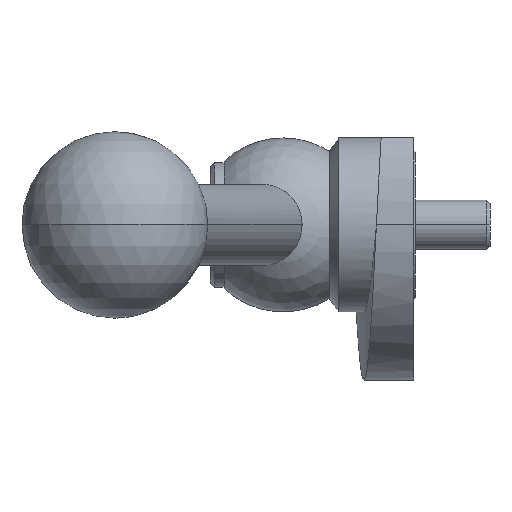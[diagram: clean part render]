
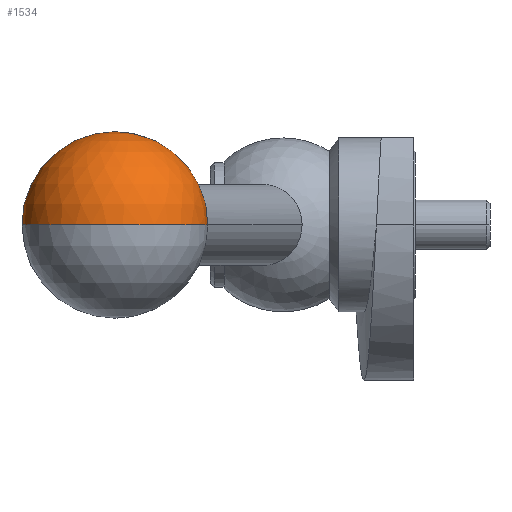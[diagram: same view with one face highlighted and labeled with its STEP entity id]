
A CAD part, left-side view. The second image highlights one B-rep face of the part: STEP entity #1534.
In plain terms, the highlighted spherical face has radius 15 mm.
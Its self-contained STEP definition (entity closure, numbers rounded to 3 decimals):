
#116 = VERTEX_POINT ( 'NONE', #2003 ) ;
#147 = EDGE_CURVE ( 'NONE', #116, #1651, #1750, .T. ) ;
#218 = DIRECTION ( 'NONE',  ( 0., 1., 0. ) ) ;
#334 = CARTESIAN_POINT ( 'NONE',  ( -88.443, 32.698, 0. ) ) ;
#395 = ORIENTED_EDGE ( 'NONE', *, *, #1309, .F. ) ;
#416 = AXIS2_PLACEMENT_3D ( 'NONE', #422, #430, #737 ) ;
#422 = CARTESIAN_POINT ( 'NONE',  ( -101., 36.063, 0. ) ) ;
#430 = DIRECTION ( 'NONE',  ( 0., 0., 1. ) ) ;
#499 = CARTESIAN_POINT ( 'NONE',  ( -101., 36.063, 0. ) ) ;
#532 = CARTESIAN_POINT ( 'NONE',  ( -90.38, 25.47, 0. ) ) ;
#542 = AXIS2_PLACEMENT_3D ( 'NONE', #957, #1602, #1899 ) ;
#649 = SPHERICAL_SURFACE ( 'NONE', #542, 15. ) ;
#672 = AXIS2_PLACEMENT_3D ( 'NONE', #334, #1578, #1140 ) ;
#695 = ORIENTED_EDGE ( 'NONE', *, *, #147, .F. ) ;
#737 = DIRECTION ( 'NONE',  ( 1., 0., 0. ) ) ;
#957 = CARTESIAN_POINT ( 'NONE',  ( -101., 36.063, 0. ) ) ;
#1086 = EDGE_LOOP ( 'NONE', ( #395, #1481, #695 ) ) ;
#1140 = DIRECTION ( 'NONE',  ( 0.259, 0.966, 0. ) ) ;
#1233 = EDGE_CURVE ( 'NONE', #1888, #1651, #1916, .T. ) ;
#1237 = AXIS2_PLACEMENT_3D ( 'NONE', #499, #1287, #218 ) ;
#1287 = DIRECTION ( 'NONE',  ( 0., 0., -1. ) ) ;
#1309 = EDGE_CURVE ( 'NONE', #1888, #116, #1496, .T. ) ;
#1405 = CARTESIAN_POINT ( 'NONE',  ( -115.489, 39.945, 0. ) ) ;
#1481 = ORIENTED_EDGE ( 'NONE', *, *, #1233, .T. ) ;
#1496 = CIRCLE ( 'NONE', #1237, 15. ) ;
#1534 = ADVANCED_FACE ( 'NONE', ( #1889 ), #649, .T. ) ;
#1578 = DIRECTION ( 'NONE',  ( 0.966, -0.259, 0. ) ) ;
#1602 = DIRECTION ( 'NONE',  ( 0., 0., -1. ) ) ;
#1651 = VERTEX_POINT ( 'NONE', #532 ) ;
#1750 = CIRCLE ( 'NONE', #672, 7.483 ) ;
#1888 = VERTEX_POINT ( 'NONE', #1405 ) ;
#1889 = FACE_OUTER_BOUND ( 'NONE', #1086, .T. ) ;
#1899 = DIRECTION ( 'NONE',  ( -0.259, -0.966, 0. ) ) ;
#1916 = CIRCLE ( 'NONE', #416, 15. ) ;
#2003 = CARTESIAN_POINT ( 'NONE',  ( -86.506, 39.927, 0. ) ) ;
